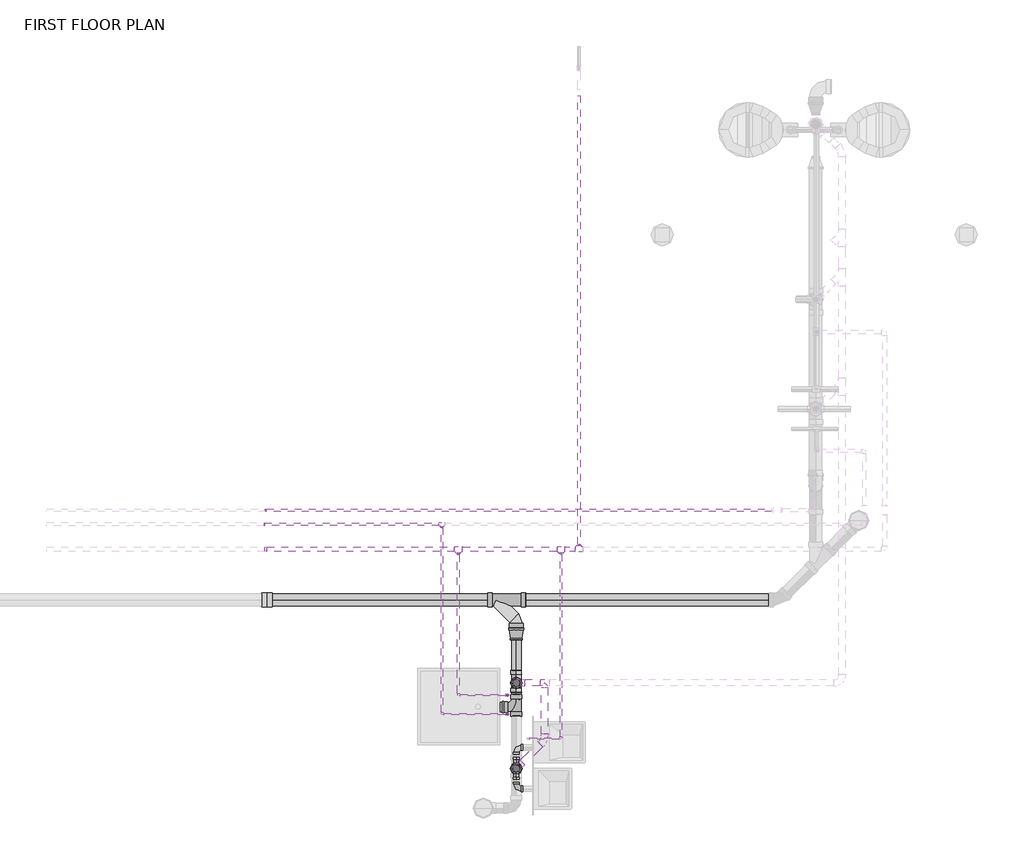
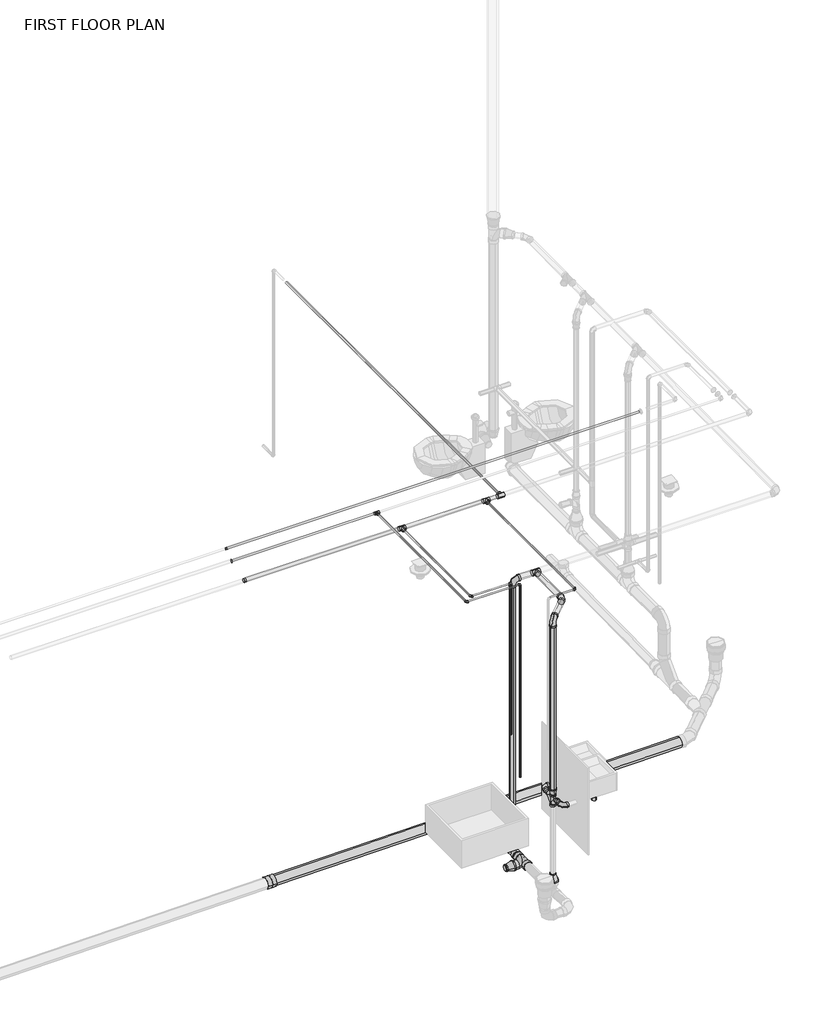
# One storey, part 7 of 9: 32 pipe fittings, 26 pipe segments.
"""IFC4 building model written with IfcOpenShell, lengths in millimetres."""

from ifc_helpers import new_model, si_unit, point, frame, frame_2d, origin, place, context, project, spatial, circle_curve, trimmed, segment, composite_curve, outline, extrude, transform, mapped, element, save
from components import bend_pvc_sch_40_dwv_standard_738aab8b, bend_pvc_sch_40_dwv_standard_1eaeee76, bend_pvc_sch_40_dwv_standard_d40d7286, bend_pvc_sch_40_dwv_standard_5578bafd, coupling_generic_copper_k_1c10cf6c, coupling_generic_copper_k_8cdb91ae, coupling_pvc_sch_40_dwv_standard_81254d96, coupling_concentric_reducing_threaded_mi_class_150_standard_f28a3886, coupling_concentric_reducing_threaded_mi_class_150_standard_7db7402d, coupling_concentric_reducing_threaded_mi_class_150_standard_01227178, coupling_concentric_reducing_threaded_mi_class_150_standard_b9624de7, pipe_elbow_copper_k_aad62f2d, pipe_tee_copper_k_36278b8a, pipe_tee_copper_k_7127fd44, pipe_tee_copper_k_ee363fbf, pipe_transition_copper_k_15e78aa1, pipe_transition_copper_k_2cc0d8ed, pipe_transition_copper_k_859ff352, pipe_transition_copper_k_6071329e, pipe_transition_copper_k_a0e390c6, standard_01f99a9c, standard_62f9fb3f, tee_sanitary_pvc_sch_40_dwv_standard_d77f13d0, tee_sanitary_pvc_sch_40_dwv_standard_fbf7a947

model = new_model("IFC4")

# Units and contexts
model_context = context("Model", 3, world=origin())
ifc_project = project(units=[si_unit("LENGTHUNIT", "METRE", prefix="MILLI")], contexts=[model_context])

# Site, building, storey
site = spatial("IfcSite", under=ifc_project)
building = spatial("IfcBuilding", under=site)
storey = spatial("IfcBuildingStorey", under=building, Name="FIRST FLOOR PLAN", Elevation=0.0)

# Pipe fittings
placement = place(None, origin())
bend_pvc_sch_40_dwv_standard_shape = bend_pvc_sch_40_dwv_standard_738aab8b(model_context)
element("IfcPipeFitting", 1, ObjectType="Bend - PVC - Sch 40 - DWV : Standard", at=placement, inside=storey, context=model_context, shape_type="MappedRepresentation", body=[
    mapped(bend_pvc_sch_40_dwv_standard_shape, transform((34740.1726669, 3470.2605294, 669.1225827), x_axis=(0.0, -1.0, 0.0), y_axis=(1.0, 0.0, 0.0), z_axis=(0.0, 0.0, 1.0))),
])
element("IfcPipeFitting", 2, ObjectType="Bend - PVC - Sch 40 - DWV : Standard", at=placement, inside=storey, context=model_context, shape_type="MappedRepresentation", body=[
    mapped(bend_pvc_sch_40_dwv_standard_shape, transform((34740.1726669, 3853.5783282, 669.1225827), x_axis=(-1.0, 0.0, 0.0), y_axis=(0.0, -1.0, 0.0), z_axis=(0.0, 0.0, 1.0))),
])
bend_pvc_sch_40_dwv_standard_2_shape = bend_pvc_sch_40_dwv_standard_1eaeee76(model_context)
element("IfcPipeFitting", 3, ObjectType="Bend - PVC - Sch 40 - DWV : Standard", at=placement, inside=storey, context=model_context, shape_type="MappedRepresentation", body=[
    mapped(bend_pvc_sch_40_dwv_standard_2_shape, transform((34740.1726669, 3659.5026874, 2794.0), x_axis=(0.0, 0.0, 1.0), y_axis=(0.7071067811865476, 0.7071067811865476, 0.0), z_axis=(-0.7071067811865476, 0.7071067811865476, 0.0))),
])
bend_pvc_sch_40_dwv_standard_3_shape = bend_pvc_sch_40_dwv_standard_d40d7286(model_context)
element("IfcPipeFitting", 4, ObjectType="Bend - PVC - Sch 40 - DWV : Standard", at=placement, inside=storey, context=model_context, shape_type="MappedRepresentation", body=[
    mapped(bend_pvc_sch_40_dwv_standard_3_shape, transform((34740.1726669, 4454.4669418, 2793.9999946), x_axis=(0.0, 0.0, 1.0), y_axis=(1.0, 0.0, 0.0), z_axis=(0.0, 1.0, 0.0))),
])
bend_pvc_sch_40_dwv_standard_4_shape = bend_pvc_sch_40_dwv_standard_5578bafd(model_context)
element("IfcPipeFitting", 5, ObjectType="Bend - PVC - Sch 40 - DWV : Standard", at=placement, inside=storey, context=model_context, shape_type="MappedRepresentation", body=[
    mapped(bend_pvc_sch_40_dwv_standard_4_shape, transform((35003.957344, 3923.2873645, 2794.0), x_axis=(0.707106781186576, 0.7071067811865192, 0.0), y_axis=(-0.7071067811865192, 0.707106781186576, 0.0), z_axis=(0.0, 0.0, 1.0))),
])
coupling_generic_copper_k_shape = coupling_generic_copper_k_1c10cf6c(model_context)
element("IfcPipeFitting", 6, ObjectType="Coupling - Generic : Copper- K", at=placement, inside=storey, context=model_context, shape_type="MappedRepresentation", body=[
    mapped(coupling_generic_copper_k_shape, transform((32413.5558918, 6059.1974224, 3007.2229223), x_axis=(-1.0, 0.0, 0.0), y_axis=(0.0, -1.0, 0.0), z_axis=(0.0, 0.0, 1.0))),
])
coupling_generic_copper_k_2_shape = coupling_generic_copper_k_8cdb91ae(model_context)
element("IfcPipeFitting", 7, ObjectType="Coupling - Generic : Copper- K", at=placement, inside=storey, context=model_context, shape_type="MappedRepresentation", body=[
    mapped(coupling_generic_copper_k_2_shape, transform((32411.7464678, 5696.5205406, 2847.5440079), x_axis=(1.0, 0.0, 0.0), y_axis=(0.0, 1.0, 0.0), z_axis=(0.0, 0.0, 1.0))),
])
coupling_pvc_sch_40_dwv_standard_shape = coupling_pvc_sch_40_dwv_standard_81254d96(model_context)
element("IfcPipeFitting", 8, ObjectType="Coupling - PVC - Sch 40 - DWV : Standard", at=placement, inside=storey, context=model_context, shape_type="MappedRepresentation", body=[
    mapped(coupling_pvc_sch_40_dwv_standard_shape, transform((32423.9541823, 5226.9278226, -492.9957265), x_axis=(-0.9999457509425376, 0.0, -0.010416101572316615), y_axis=(0.0, -1.0000000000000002, 0.0), z_axis=(-0.010416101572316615, 0.0, 0.9999457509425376))),
])
coupling_concentric_reducing_threaded_mi_class_150_standard_shape = coupling_concentric_reducing_threaded_mi_class_150_standard_f28a3886(model_context)
element("IfcPipeFitting", 9, ObjectType="Coupling Concentric Reducing - Threaded - MI - Class 150 : Standard", at=placement, inside=storey, context=model_context, shape_type="MappedRepresentation", body=[
    mapped(coupling_concentric_reducing_threaded_mi_class_150_standard_shape, transform((34740.2032876, 3659.4721111, 700.0597827), x_axis=(0.0, 0.0, 1.0), y_axis=(0.0, -1.0, 0.0), z_axis=(1.0, 0.0, 0.0))),
])
coupling_concentric_reducing_threaded_mi_class_150_standard_2_shape = coupling_concentric_reducing_threaded_mi_class_150_standard_7db7402d(model_context)
element("IfcPipeFitting", 10, ObjectType="Coupling Concentric Reducing - Threaded - MI - Class 150 : Standard", at=placement, inside=storey, context=model_context, shape_type="MappedRepresentation", body=[
    mapped(coupling_concentric_reducing_threaded_mi_class_150_standard_2_shape, transform((34624.384561, 4229.7394509, -462.2184979), x_axis=(-1.0, 0.0, 0.0), y_axis=(0.0, -0.9999458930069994, 0.010402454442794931), z_axis=(0.0, 0.010402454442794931, 0.9999458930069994))),
])
element("IfcPipeFitting", 11, ObjectType="Coupling Concentric Reducing - Threaded - MI - Class 150 : Standard", at=placement, inside=storey, context=model_context, shape_type="MappedRepresentation", body=[
    mapped(coupling_concentric_reducing_threaded_mi_class_150_standard_2_shape, transform((34740.284761, 4454.3928316, -348.4820026), x_axis=(0.0, 0.0, 1.0), y_axis=(0.0, 1.0, 0.0), z_axis=(-1.0, 0.0, 0.0))),
])
coupling_concentric_reducing_threaded_mi_class_150_standard_3_shape = coupling_concentric_reducing_threaded_mi_class_150_standard_01227178(model_context)
element("IfcPipeFitting", 12, ObjectType="Coupling Concentric Reducing - Threaded - MI - Class 150 : Standard", at=placement, inside=storey, context=model_context, shape_type="MappedRepresentation", body=[
    mapped(coupling_concentric_reducing_threaded_mi_class_150_standard_3_shape, transform((34740.284761, 4964.1913911, -468.0836603), x_axis=(0.0, -0.9999955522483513, 0.002982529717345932), y_axis=(0.9999457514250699, 3.106619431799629e-05, 0.010416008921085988), z_axis=(-0.010416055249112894, 0.002982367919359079, 0.9999413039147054))),
])
coupling_concentric_reducing_threaded_mi_class_150_standard_4_shape = coupling_concentric_reducing_threaded_mi_class_150_standard_b9624de7(model_context)
element("IfcPipeFitting", 13, ObjectType="Coupling Concentric Reducing - Threaded - MI - Class 150 : Standard", at=placement, inside=storey, context=model_context, shape_type="MappedRepresentation", body=[
    mapped(coupling_concentric_reducing_threaded_mi_class_150_standard_4_shape, transform((34740.1948035, 3659.4805822, -340.385885), x_axis=(0.0, 0.0, 1.0), y_axis=(-1.0, 0.0, 0.0), z_axis=(0.0, -1.0, 0.0))),
])
pipe_elbow_copper_k_shape = pipe_elbow_copper_k_aad62f2d(model_context)
element("IfcPipeFitting", 14, ObjectType="Pipe Elbow : Copper- K", at=placement, inside=storey, context=model_context, shape_type="MappedRepresentation", body=[
    mapped(pipe_elbow_copper_k_shape, transform((34658.0589678, 4340.9414319, 2847.578125), x_axis=(0.0, 0.0, 1.0), y_axis=(-1.0, 0.0, 0.0), z_axis=(0.0, -1.0, 0.0))),
])
element("IfcPipeFitting", 15, ObjectType="Pipe Elbow : Copper- K", at=placement, inside=storey, context=model_context, shape_type="MappedRepresentation", body=[
    mapped(pipe_elbow_copper_k_shape, transform((34658.0589678, 4164.4007442, 2942.828125), x_axis=(0.0, 0.0, 1.0), y_axis=(-1.0, 0.0, 0.0), z_axis=(0.0, -1.0, 0.0))),
])
element("IfcPipeFitting", 16, ObjectType="Pipe Elbow : Copper- K", at=placement, inside=storey, context=model_context, shape_type="MappedRepresentation", body=[
    mapped(pipe_elbow_copper_k_shape, transform((34200.8589678, 4340.9414319, 2847.578125), x_axis=(0.0, -0.9999999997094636, 2.410545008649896e-05), y_axis=(1.0, 0.0, 0.0), z_axis=(0.0, 2.410545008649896e-05, 0.9999999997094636))),
])
element("IfcPipeFitting", 17, ObjectType="Pipe Elbow : Copper- K", at=placement, inside=storey, context=model_context, shape_type="MappedRepresentation", body=[
    mapped(pipe_elbow_copper_k_shape, transform((34048.4589678, 4164.4007442, 2942.828125), x_axis=(0.0, -1.0, 0.0), y_axis=(1.0, 0.0, 0.0), z_axis=(0.0, 0.0, 1.0))),
])
element("IfcPipeFitting", 18, ObjectType="Pipe Elbow : Copper- K", at=placement, inside=storey, context=model_context, shape_type="MappedRepresentation", body=[
    mapped(pipe_elbow_copper_k_shape, transform((35155.3386964, 3935.1645979, 2847.5777979), x_axis=(1.0, 0.0, 0.0), y_axis=(0.0, 1.0, 0.0), z_axis=(0.0, 0.0, 1.0))),
])
pipe_tee_copper_k_shape = pipe_tee_copper_k_36278b8a(model_context)
element("IfcPipeFitting", 19, ObjectType="Pipe Tee : Copper- K", at=placement, inside=storey, context=model_context, shape_type="MappedRepresentation", body=[
    mapped(pipe_tee_copper_k_shape, transform((35003.957344, 4454.4669418, 2794.0), x_axis=(1.0, 0.0, 0.0), y_axis=(0.0, 1.0, 0.0), z_axis=(0.0, 0.0, 1.0))),
])
pipe_tee_copper_k_2_shape = pipe_tee_copper_k_7127fd44(model_context)
element("IfcPipeFitting", 20, ObjectType="Pipe Tee : Copper- K", at=placement, inside=storey, context=model_context, shape_type="MappedRepresentation", body=[
    mapped(pipe_tee_copper_k_2_shape, transform((35155.3386964, 5696.5205406, 2847.5440079), x_axis=(-1.0, 0.0, 0.0), y_axis=(0.0, 1.0, 0.0), z_axis=(0.0, 0.0, -1.0))),
])
element("IfcPipeFitting", 21, ObjectType="Pipe Tee : Copper- K", at=placement, inside=storey, context=model_context, shape_type="MappedRepresentation", body=[
    mapped(pipe_tee_copper_k_2_shape, transform((34200.8589678, 5696.5205406, 2847.5440079), x_axis=(-1.0, 0.0, 0.0), y_axis=(0.0, 1.0, 0.0), z_axis=(0.0, 0.0, -1.0))),
])
element("IfcPipeFitting", 22, ObjectType="Pipe Tee : Copper- K", at=placement, inside=storey, context=model_context, shape_type="MappedRepresentation", body=[
    mapped(pipe_tee_copper_k_2_shape, transform((35321.9240213, 5696.5205406, 2847.5440079), x_axis=(-1.0, 0.0, 0.0), y_axis=(0.0, -1.0, 0.0), z_axis=(0.0, 0.0, 1.0))),
])
pipe_tee_copper_k_3_shape = pipe_tee_copper_k_ee363fbf(model_context)
element("IfcPipeFitting", 23, ObjectType="Pipe Tee : Copper- K", at=placement, inside=storey, context=model_context, shape_type="MappedRepresentation", body=[
    mapped(pipe_tee_copper_k_3_shape, transform((34048.4589678, 5928.9468422, 2942.828125), x_axis=(-1.0, 0.0, 0.0), y_axis=(0.0, 1.0, 0.0), z_axis=(0.0, 0.0, -1.0))),
])
pipe_transition_copper_k_shape = pipe_transition_copper_k_15e78aa1(model_context)
element("IfcPipeFitting", 24, ObjectType="Pipe Transition : Copper- K", at=placement, inside=storey, context=model_context, shape_type="MappedRepresentation", body=[
    mapped(pipe_transition_copper_k_shape, transform((35155.3386964, 5660.0080406, 2847.5440079), x_axis=(0.0, -1.0, 0.0), y_axis=(1.0, 0.0, 0.0), z_axis=(0.0, 0.0, 1.0))),
])
pipe_transition_copper_k_2_shape = pipe_transition_copper_k_2cc0d8ed(model_context)
element("IfcPipeFitting", 25, ObjectType="Pipe Transition : Copper- K", at=placement, inside=storey, context=model_context, shape_type="MappedRepresentation", body=[
    mapped(pipe_transition_copper_k_2_shape, transform((34200.8589678, 5660.0080406, 2847.5440079), x_axis=(0.0, -1.0, 0.0), y_axis=(1.0, 0.0, 0.0), z_axis=(0.0, 0.0, 1.0))),
])
pipe_transition_copper_k_3_shape = pipe_transition_copper_k_859ff352(model_context)
element("IfcPipeFitting", 26, ObjectType="Pipe Transition : Copper- K", at=placement, inside=storey, context=model_context, shape_type="MappedRepresentation", body=[
    mapped(pipe_transition_copper_k_3_shape, transform((34048.4589678, 5901.9593422, 2942.828125), x_axis=(0.0, -1.0, 0.0), y_axis=(1.0, 0.0, 0.0), z_axis=(0.0, 0.0, 1.0))),
])
pipe_transition_copper_k_4_shape = pipe_transition_copper_k_6071329e(model_context)
element("IfcPipeFitting", 27, ObjectType="Pipe Transition : Copper- K", at=placement, inside=storey, context=model_context, shape_type="MappedRepresentation", body=[
    mapped(pipe_transition_copper_k_4_shape, transform((35321.9240213, 5733.0330406, 2847.5440079), x_axis=(0.0, 1.0, 0.0), y_axis=(-1.0, 0.0, 0.0), z_axis=(0.0, 0.0, 1.0))),
])
pipe_transition_copper_k_5_shape = pipe_transition_copper_k_a0e390c6(model_context)
element("IfcPipeFitting", 28, ObjectType="Pipe Transition : Copper- K", at=placement, inside=storey, context=model_context, shape_type="MappedRepresentation", body=[
    mapped(pipe_transition_copper_k_5_shape, transform((32401.4277178, 5928.9468422, 2942.828125), x_axis=(-1.0, 0.0, 0.0), y_axis=(0.0, -1.0, 0.0), z_axis=(0.0, 0.0, 1.0))),
])
standard_shape = standard_01f99a9c(model_context)
element("IfcPipeFitting", 29, ObjectType="GES Wye Combination with 8th Bend Double - PVC - Sch 40 - DWV : Standard", at=placement, inside=storey, context=model_context, shape_type="MappedRepresentation", body=[
    mapped(standard_shape, transform((34740.2032876, 3659.4721111, 669.1225827), x_axis=(0.0, 0.0, 1.0), y_axis=(0.0, 1.0, 0.0), z_axis=(-1.0, 0.0, 0.0))),
])
standard_2_shape = standard_62f9fb3f(model_context)
element("IfcPipeFitting", 30, ObjectType="GES Wye Combination with 8th Bend - PVC - Sch 40 - DWV : Standard", at=placement, inside=storey, context=model_context, shape_type="MappedRepresentation", body=[
    mapped(standard_2_shape, transform((34740.284761, 5226.9278226, -468.867283), x_axis=(0.9999457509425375, 0.0, 0.01041610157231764), y_axis=(3.106464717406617e-05, 0.9999955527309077, -0.002982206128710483), z_axis=(-0.010416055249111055, 0.002982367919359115, 0.9999413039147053))),
])
tee_sanitary_pvc_sch_40_dwv_standard_shape = tee_sanitary_pvc_sch_40_dwv_standard_d77f13d0(model_context)
element("IfcPipeFitting", 31, ObjectType="Tee Sanitary - PVC - Sch 40 - DWV : Standard", at=placement, inside=storey, context=model_context, shape_type="MappedRepresentation", body=[
    mapped(tee_sanitary_pvc_sch_40_dwv_standard_shape, transform((34740.284761, 4229.7394509, -462.2184979), x_axis=(0.0, -0.9999458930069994, 0.010402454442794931), y_axis=(1.0, 0.0, 0.0), z_axis=(0.0, 0.010402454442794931, 0.9999458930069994))),
])
tee_sanitary_pvc_sch_40_dwv_standard_2_shape = tee_sanitary_pvc_sch_40_dwv_standard_fbf7a947(model_context)
element("IfcPipeFitting", 32, ObjectType="Tee Sanitary - PVC - Sch 40 - DWV : Standard", at=placement, inside=storey, context=model_context, shape_type="MappedRepresentation", body=[
    mapped(tee_sanitary_pvc_sch_40_dwv_standard_2_shape, transform((34740.284761, 4454.3928316, -464.3822026), x_axis=(0.0, -0.9999642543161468, 0.008455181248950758), y_axis=(0.0, -0.008455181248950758, -0.9999642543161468), z_axis=(1.0, 0.0, 0.0))),
])

# Pipe segments
element("IfcPipeSegment", 33, ObjectType="Copper", at=placement, inside=storey, context=model_context, shape_type="SweptSolid", body=[
    extrude(outline(composite_curve([segment(trimmed(circle_curve(frame_2d((3935.1645979, 2847.578125)), 7.9375), [point((3927.2270979, 2847.578125))], [point((3935.1645979, 2855.515625))], False, "CARTESIAN"), True, "CONTINUOUS"), segment(trimmed(circle_curve(frame_2d((3935.1645979, 2847.578125)), 7.9375), [point((3935.1645979, 2855.515625))], [point((3943.1020979, 2847.578125))], False, "CARTESIAN"), True, "CONTINUOUS"), segment(trimmed(circle_curve(frame_2d((3935.1645979, 2847.578125)), 7.9375), [point((3943.1020979, 2847.578125))], [point((3935.1645979, 2839.640625))], False, "CARTESIAN"), True, "CONTINUOUS"), segment(trimmed(circle_curve(frame_2d((3935.1645979, 2847.578125)), 7.9375), [point((3935.1645979, 2839.640625))], [point((3927.2270979, 2847.578125))], False, "CARTESIAN"), True, "CONTINUOUS")], self_intersect=False)), frame((34864.8980779, 0.0, 0.0), z_axis=(1.0, 0.0, 0.0), x_axis=(0.0, 1.0, 0.0)), (0.0, 0.0, 1.0), 272.9781184),
])
element("IfcPipeSegment", 34, ObjectType="Copper", at=placement, inside=storey, context=model_context, shape_type="SweptSolid", body=[
    extrude(outline(composite_curve([segment(trimmed(circle_curve(frame_2d((2847.5777979, 35155.3386964)), 7.9375), [point((2847.5777979, 35147.4011964))], [point((2839.6402979, 35155.3386964))], False, "CARTESIAN"), True, "CONTINUOUS"), segment(trimmed(circle_curve(frame_2d((2847.5777979, 35155.3386964)), 7.9375), [point((2839.6402979, 35155.3386964))], [point((2847.5777979, 35163.2761964))], False, "CARTESIAN"), True, "CONTINUOUS"), segment(trimmed(circle_curve(frame_2d((2847.5777979, 35155.3386964)), 7.9375), [point((2847.5777979, 35163.2761964))], [point((2855.5152979, 35155.3386964))], False, "CARTESIAN"), True, "CONTINUOUS"), segment(trimmed(circle_curve(frame_2d((2847.5777979, 35155.3386964)), 7.9375), [point((2855.5152979, 35155.3386964))], [point((2847.5777979, 35147.4011964))], False, "CARTESIAN"), True, "CONTINUOUS")], self_intersect=False)), frame((0.0, 3952.6270979, 0.0), z_axis=(0.0, 1.0, 0.0), x_axis=(0.0, 0.0, 1.0)), (0.0, 0.0, 1.0), 1697.0621927),
])
element("IfcPipeSegment", 35, ObjectType="Copper", at=placement, inside=storey, context=model_context, shape_type="SweptSolid", body=[
    extrude(outline(composite_curve([segment(trimmed(circle_curve(frame_2d((5696.5205406, 2847.5440079)), 20.6375), [point((5675.8830406, 2847.5440079))], [point((5696.5205406, 2868.1815079))], False, "CARTESIAN"), True, "CONTINUOUS"), segment(trimmed(circle_curve(frame_2d((5696.5205406, 2847.5440079)), 20.6375), [point((5696.5205406, 2868.1815079))], [point((5717.1580406, 2847.5440079))], False, "CARTESIAN"), True, "CONTINUOUS"), segment(trimmed(circle_curve(frame_2d((5696.5205406, 2847.5440079)), 20.6375), [point((5717.1580406, 2847.5440079))], [point((5696.5205406, 2826.9065079))], False, "CARTESIAN"), True, "CONTINUOUS"), segment(trimmed(circle_curve(frame_2d((5696.5205406, 2847.5440079)), 20.6375), [point((5696.5205406, 2826.9065079))], [point((5675.8830406, 2847.5440079))], False, "CARTESIAN"), True, "CONTINUOUS")], self_intersect=False)), frame((34237.3714678, 0.0, 0.0), z_axis=(1.0, 0.0, 0.0), x_axis=(0.0, 1.0, 0.0)), (0.0, 0.0, 1.0), 881.4547286),
])
element("IfcPipeSegment", 36, ObjectType="Copper", at=placement, inside=storey, context=model_context, shape_type="SweptSolid", body=[
    extrude(outline(composite_curve([segment(trimmed(circle_curve(frame_2d((4340.9414319, 2847.578125)), 7.9375), [point((4348.8789319, 2847.578125))], [point((4340.9414319, 2839.640625))], False, "CARTESIAN"), True, "CONTINUOUS"), segment(trimmed(circle_curve(frame_2d((4340.9414319, 2847.578125)), 7.9375), [point((4340.9414319, 2839.640625))], [point((4333.0039319, 2847.578125))], False, "CARTESIAN"), True, "CONTINUOUS"), segment(trimmed(circle_curve(frame_2d((4340.9414319, 2847.578125)), 7.9375), [point((4333.0039319, 2847.578125))], [point((4340.9414319, 2855.515625))], False, "CARTESIAN"), True, "CONTINUOUS"), segment(trimmed(circle_curve(frame_2d((4340.9414319, 2847.578125)), 7.9375), [point((4340.9414319, 2855.515625))], [point((4348.8789319, 2847.578125))], False, "CARTESIAN"), True, "CONTINUOUS")], self_intersect=False)), frame((34218.3214678, 0.0, 0.0), z_axis=(1.0, 0.0, 0.0), x_axis=(0.0, 1.0, 0.0)), (0.0, 0.0, 1.0), 422.275),
])
element("IfcPipeSegment", 37, ObjectType="Copper", at=placement, inside=storey, context=model_context, shape_type="SweptSolid", body=[
    extrude(outline(composite_curve([segment(trimmed(circle_curve(frame_2d((4164.4007442, 2942.828125)), 7.9375), [point((4172.3382442, 2942.828125))], [point((4164.4007442, 2934.890625))], False, "CARTESIAN"), True, "CONTINUOUS"), segment(trimmed(circle_curve(frame_2d((4164.4007442, 2942.828125)), 7.9375), [point((4164.4007442, 2934.890625))], [point((4156.4632442, 2942.828125))], False, "CARTESIAN"), True, "CONTINUOUS"), segment(trimmed(circle_curve(frame_2d((4164.4007442, 2942.828125)), 7.9375), [point((4156.4632442, 2942.828125))], [point((4164.4007442, 2950.765625))], False, "CARTESIAN"), True, "CONTINUOUS"), segment(trimmed(circle_curve(frame_2d((4164.4007442, 2942.828125)), 7.9375), [point((4164.4007442, 2950.765625))], [point((4172.3382442, 2942.828125))], False, "CARTESIAN"), True, "CONTINUOUS")], self_intersect=False)), frame((34065.9214678, 0.0, 0.0), z_axis=(1.0, 0.0, 0.0), x_axis=(0.0, 1.0, 0.0)), (0.0, 0.0, 1.0), 574.675),
])
element("IfcPipeSegment", 38, ObjectType="Copper", at=placement, inside=storey, context=model_context, shape_type="SweptSolid", body=[
    extrude(outline(composite_curve([segment(trimmed(circle_curve(frame_2d((34658.0589678, 4164.4007442)), 7.9375), [point((34665.9964678, 4164.4007442))], [point((34658.0589678, 4156.4632442))], False, "CARTESIAN"), True, "CONTINUOUS"), segment(trimmed(circle_curve(frame_2d((34658.0589678, 4164.4007442)), 7.9375), [point((34658.0589678, 4156.4632442))], [point((34650.1214678, 4164.4007442))], False, "CARTESIAN"), True, "CONTINUOUS"), segment(trimmed(circle_curve(frame_2d((34658.0589678, 4164.4007442)), 7.9375), [point((34650.1214678, 4164.4007442))], [point((34658.0589678, 4172.3382442))], False, "CARTESIAN"), True, "CONTINUOUS"), segment(trimmed(circle_curve(frame_2d((34658.0589678, 4164.4007442)), 7.9375), [point((34658.0589678, 4172.3382442))], [point((34665.9964678, 4164.4007442))], False, "CARTESIAN"), True, "CONTINUOUS")], self_intersect=False)), frame((0.0, 0.0, 629.840625), z_axis=(0.0, 0.0, 1.0), x_axis=(1.0, 0.0, 0.0)), (0.0, 0.0, 1.0), 2295.525),
])
element("IfcPipeSegment", 39, ObjectType="Copper", at=placement, inside=storey, context=model_context, shape_type="SweptSolid", body=[
    extrude(outline(composite_curve([segment(trimmed(circle_curve(frame_2d((34658.0589678, 4340.9414319)), 7.9375), [point((34665.9964678, 4340.9414319))], [point((34658.0589678, 4333.0039319))], False, "CARTESIAN"), True, "CONTINUOUS"), segment(trimmed(circle_curve(frame_2d((34658.0589678, 4340.9414319)), 7.9375), [point((34658.0589678, 4333.0039319))], [point((34650.1214678, 4340.9414319))], False, "CARTESIAN"), True, "CONTINUOUS"), segment(trimmed(circle_curve(frame_2d((34658.0589678, 4340.9414319)), 7.9375), [point((34650.1214678, 4340.9414319))], [point((34658.0589678, 4348.8789319))], False, "CARTESIAN"), True, "CONTINUOUS"), segment(trimmed(circle_curve(frame_2d((34658.0589678, 4340.9414319)), 7.9375), [point((34658.0589678, 4348.8789319))], [point((34665.9964678, 4340.9414319))], False, "CARTESIAN"), True, "CONTINUOUS")], self_intersect=False)), frame((0.0, 0.0, 1036.1671981), z_axis=(0.0, 0.0, 1.0), x_axis=(1.0, 0.0, 0.0)), (0.0, 0.0, 1.0), 1793.9484269),
])
element("IfcPipeSegment", 40, ObjectType="Copper", at=placement, inside=storey, context=model_context, shape_type="SweptSolid", body=[
    extrude(outline(composite_curve([segment(trimmed(circle_curve(frame_2d((2847.5777041, 34200.8589678)), 7.9375), [point((2847.5777041, 34192.9214678))], [point((2839.6402041, 34200.8589678))], False, "CARTESIAN"), True, "CONTINUOUS"), segment(trimmed(circle_curve(frame_2d((2847.5777041, 34200.8589678)), 7.9375), [point((2839.6402041, 34200.8589678))], [point((2847.5777041, 34208.7964678))], False, "CARTESIAN"), True, "CONTINUOUS"), segment(trimmed(circle_curve(frame_2d((2847.5777041, 34200.8589678)), 7.9375), [point((2847.5777041, 34208.7964678))], [point((2855.5152041, 34200.8589678))], False, "CARTESIAN"), True, "CONTINUOUS"), segment(trimmed(circle_curve(frame_2d((2847.5777041, 34200.8589678)), 7.9375), [point((2855.5152041, 34200.8589678))], [point((2847.5777041, 34192.9214678))], False, "CARTESIAN"), True, "CONTINUOUS")], self_intersect=False)), frame((0.0, 4358.4039319, 0.0), z_axis=(0.0, 1.0, 0.0), x_axis=(0.0, 0.0, 1.0)), (0.0, 0.0, 1.0), 1291.2853586),
])
element("IfcPipeSegment", 41, ObjectType="Copper", at=placement, inside=storey, context=model_context, shape_type="SweptSolid", body=[
    extrude(outline(composite_curve([segment(trimmed(circle_curve(frame_2d((5696.5205406, 2847.5440079)), 20.6375), [point((5675.8830406, 2847.5440079))], [point((5696.5205406, 2868.1815079))], False, "CARTESIAN"), True, "CONTINUOUS"), segment(trimmed(circle_curve(frame_2d((5696.5205406, 2847.5440079)), 20.6375), [point((5696.5205406, 2868.1815079))], [point((5717.1580406, 2847.5440079))], False, "CARTESIAN"), True, "CONTINUOUS"), segment(trimmed(circle_curve(frame_2d((5696.5205406, 2847.5440079)), 20.6375), [point((5717.1580406, 2847.5440079))], [point((5696.5205406, 2826.9065079))], False, "CARTESIAN"), True, "CONTINUOUS"), segment(trimmed(circle_curve(frame_2d((5696.5205406, 2847.5440079)), 20.6375), [point((5696.5205406, 2826.9065079))], [point((5675.8830406, 2847.5440079))], False, "CARTESIAN"), True, "CONTINUOUS")], self_intersect=False)), frame((32422.0652178, 0.0, 0.0), z_axis=(1.0, 0.0, 0.0), x_axis=(0.0, 1.0, 0.0)), (0.0, 0.0, 1.0), 1742.28125),
])
element("IfcPipeSegment", 42, ObjectType="Copper", at=placement, inside=storey, context=model_context, shape_type="SweptSolid", body=[
    extrude(outline(composite_curve([segment(trimmed(circle_curve(frame_2d((2942.828125, 34048.4589678)), 7.9375), [point((2942.828125, 34040.5214678))], [point((2934.890625, 34048.4589678))], False, "CARTESIAN"), True, "CONTINUOUS"), segment(trimmed(circle_curve(frame_2d((2942.828125, 34048.4589678)), 7.9375), [point((2934.890625, 34048.4589678))], [point((2942.828125, 34056.3964678))], False, "CARTESIAN"), True, "CONTINUOUS"), segment(trimmed(circle_curve(frame_2d((2942.828125, 34048.4589678)), 7.9375), [point((2942.828125, 34056.3964678))], [point((2950.765625, 34048.4589678))], False, "CARTESIAN"), True, "CONTINUOUS"), segment(trimmed(circle_curve(frame_2d((2942.828125, 34048.4589678)), 7.9375), [point((2950.765625, 34048.4589678))], [point((2942.828125, 34040.5214678))], False, "CARTESIAN"), True, "CONTINUOUS")], self_intersect=False)), frame((0.0, 4181.8632442, 0.0), z_axis=(0.0, 1.0, 0.0), x_axis=(0.0, 0.0, 1.0)), (0.0, 0.0, 1.0), 1714.539848),
])
element("IfcPipeSegment", 43, ObjectType="Copper", at=placement, inside=storey, context=model_context, shape_type="SweptSolid", body=[
    extrude(outline(composite_curve([segment(trimmed(circle_curve(frame_2d((5696.5205406, 2847.5440079)), 20.6375), [point((5675.8830406, 2847.5440079))], [point((5696.5205406, 2868.1815079))], False, "CARTESIAN"), True, "CONTINUOUS"), segment(trimmed(circle_curve(frame_2d((5696.5205406, 2847.5440079)), 20.6375), [point((5696.5205406, 2868.1815079))], [point((5717.1580406, 2847.5440079))], False, "CARTESIAN"), True, "CONTINUOUS"), segment(trimmed(circle_curve(frame_2d((5696.5205406, 2847.5440079)), 20.6375), [point((5717.1580406, 2847.5440079))], [point((5696.5205406, 2826.9065079))], False, "CARTESIAN"), True, "CONTINUOUS"), segment(trimmed(circle_curve(frame_2d((5696.5205406, 2847.5440079)), 20.6375), [point((5696.5205406, 2826.9065079))], [point((5675.8830406, 2847.5440079))], False, "CARTESIAN"), True, "CONTINUOUS")], self_intersect=False)), frame((35191.8511964, 0.0, 0.0), z_axis=(1.0, 0.0, 0.0), x_axis=(0.0, 1.0, 0.0)), (0.0, 0.0, 1.0), 93.5603249),
])
element("IfcPipeSegment", 44, ObjectType="Copper", at=placement, inside=storey, context=model_context, shape_type="SweptSolid", body=[
    extrude(outline(composite_curve([segment(trimmed(circle_curve(frame_2d((2847.578125, 35321.9240213)), 11.1125), [point((2847.578125, 35333.0365213))], [point((2858.690625, 35321.9240213))], False, "CARTESIAN"), True, "CONTINUOUS"), segment(trimmed(circle_curve(frame_2d((2847.578125, 35321.9240213)), 11.1125), [point((2858.690625, 35321.9240213))], [point((2847.578125, 35310.8115213))], False, "CARTESIAN"), True, "CONTINUOUS"), segment(trimmed(circle_curve(frame_2d((2847.578125, 35321.9240213)), 11.1125), [point((2847.578125, 35310.8115213))], [point((2836.465625, 35321.9240213))], False, "CARTESIAN"), True, "CONTINUOUS"), segment(trimmed(circle_curve(frame_2d((2847.578125, 35321.9240213)), 11.1125), [point((2836.465625, 35321.9240213))], [point((2847.578125, 35333.0365213))], False, "CARTESIAN"), True, "CONTINUOUS")], self_intersect=False)), frame((0.0, 5743.3517906, 0.0), z_axis=(0.0, 1.0, 0.0), x_axis=(0.0, 0.0, 1.0)), (0.0, 0.0, 1.0), 4167.8407388),
])
element("IfcPipeSegment", 45, ObjectType="Copper", at=placement, inside=storey, context=model_context, shape_type="SweptSolid", body=[
    extrude(outline(composite_curve([segment(trimmed(circle_curve(frame_2d((6059.1974224, 3007.2229223)), 11.1125), [point((6070.3099224, 3007.2229223))], [point((6059.1974224, 2996.1104223))], False, "CARTESIAN"), True, "CONTINUOUS"), segment(trimmed(circle_curve(frame_2d((6059.1974224, 3007.2229223)), 11.1125), [point((6059.1974224, 2996.1104223))], [point((6048.0849224, 3007.2229223))], False, "CARTESIAN"), True, "CONTINUOUS"), segment(trimmed(circle_curve(frame_2d((6059.1974224, 3007.2229223)), 11.1125), [point((6048.0849224, 3007.2229223))], [point((6059.1974224, 3018.3354223))], False, "CARTESIAN"), True, "CONTINUOUS"), segment(trimmed(circle_curve(frame_2d((6059.1974224, 3007.2229223)), 11.1125), [point((6059.1974224, 3018.3354223))], [point((6070.3099224, 3007.2229223))], False, "CARTESIAN"), True, "CONTINUOUS")], self_intersect=False)), frame((32419.1121418, 0.0, 0.0), z_axis=(1.0, 0.0, 0.0), x_axis=(0.0, 1.0, 0.0)), (0.0, 0.0, 1.0), 4693.44375),
])
element("IfcPipeSegment", 46, ObjectType="Copper", at=placement, inside=storey, context=model_context, shape_type="SweptSolid", body=[
    extrude(outline(composite_curve([segment(trimmed(circle_curve(frame_2d((5928.9468422, 2942.828125)), 11.1125), [point((5940.0593422, 2942.828125))], [point((5928.9468422, 2931.715625))], False, "CARTESIAN"), True, "CONTINUOUS"), segment(trimmed(circle_curve(frame_2d((5928.9468422, 2942.828125)), 11.1125), [point((5928.9468422, 2931.715625))], [point((5917.8343422, 2942.828125))], False, "CARTESIAN"), True, "CONTINUOUS"), segment(trimmed(circle_curve(frame_2d((5928.9468422, 2942.828125)), 11.1125), [point((5917.8343422, 2942.828125))], [point((5928.9468422, 2953.940625))], False, "CARTESIAN"), True, "CONTINUOUS"), segment(trimmed(circle_curve(frame_2d((5928.9468422, 2942.828125)), 11.1125), [point((5928.9468422, 2953.940625))], [point((5940.0593422, 2942.828125))], False, "CARTESIAN"), True, "CONTINUOUS")], self_intersect=False)), frame((32401.4277178, 0.0, 0.0), z_axis=(1.0, 0.0, 0.0), x_axis=(0.0, 1.0, 0.0)), (0.0, 0.0, 1.0), 1620.04375),
])
element("IfcPipeSegment", 47, ObjectType="PVC - SAN/STORM", at=placement, inside=storey, context=model_context, shape_type="SweptSolid", body=[
    extrude(outline(composite_curve([segment(trimmed(circle_curve(frame_2d((4229.7394509, -462.2184979)), 30.1625), [point((4199.5769509, -462.2184979))], [point((4229.7394509, -432.0559979))], False, "CARTESIAN"), True, "CONTINUOUS"), segment(trimmed(circle_curve(frame_2d((4229.7394509, -462.2184979)), 30.1625), [point((4229.7394509, -432.0559979))], [point((4259.9019509, -462.2184979))], False, "CARTESIAN"), True, "CONTINUOUS"), segment(trimmed(circle_curve(frame_2d((4229.7394509, -462.2184979)), 30.1625), [point((4259.9019509, -462.2184979))], [point((4229.7394509, -492.3809979))], False, "CARTESIAN"), True, "CONTINUOUS"), segment(trimmed(circle_curve(frame_2d((4229.7394509, -462.2184979)), 30.1625), [point((4229.7394509, -492.3809979))], [point((4199.5769509, -462.2184979))], False, "CARTESIAN"), True, "CONTINUOUS")], self_intersect=False)), frame((34525.5860903, 0.0, 0.0), z_axis=(1.0, 0.0, 0.0), x_axis=(0.0, 1.0, 0.0)), (0.0, 0.0, 1.0), 5.0984707),
])
element("IfcPipeSegment", 48, ObjectType="PVC - SAN/STORM", at=placement, inside=storey, context=model_context, shape_type="SweptSolid", body=[
    extrude(outline(composite_curve([segment(trimmed(circle_curve(frame_2d((35172.2907279, 3853.5783282)), 24.13), [point((35148.1607279, 3853.5783282))], [point((35172.2907279, 3877.7083282))], False, "CARTESIAN"), True, "CONTINUOUS"), segment(trimmed(circle_curve(frame_2d((35172.2907279, 3853.5783282)), 24.13), [point((35172.2907279, 3877.7083282))], [point((35196.4207279, 3853.5783282))], False, "CARTESIAN"), True, "CONTINUOUS"), segment(trimmed(circle_curve(frame_2d((35172.2907279, 3853.5783282)), 24.13), [point((35196.4207279, 3853.5783282))], [point((35172.2907279, 3829.4483282))], False, "CARTESIAN"), True, "CONTINUOUS"), segment(trimmed(circle_curve(frame_2d((35172.2907279, 3853.5783282)), 24.13), [point((35172.2907279, 3829.4483282))], [point((35148.1607279, 3853.5783282))], False, "CARTESIAN"), True, "CONTINUOUS")], self_intersect=False)), frame((0.0, 0.0, 624.6598827), z_axis=(0.0, 0.0, 1.0), x_axis=(1.0, 0.0, 0.0)), (0.0, 0.0, 1.0), 120.65),
])
element("IfcPipeSegment", 49, ObjectType="PVC - SAN/STORM", at=placement, inside=storey, context=model_context, shape_type="SweptSolid", body=[
    extrude(outline(composite_curve([segment(trimmed(circle_curve(frame_2d((35097.7812957, 3470.2605294)), 24.13), [point((35073.6512957, 3470.2605294))], [point((35097.7812957, 3494.3905294))], False, "CARTESIAN"), True, "CONTINUOUS"), segment(trimmed(circle_curve(frame_2d((35097.7812957, 3470.2605294)), 24.13), [point((35097.7812957, 3494.3905294))], [point((35121.9112957, 3470.2605294))], False, "CARTESIAN"), True, "CONTINUOUS"), segment(trimmed(circle_curve(frame_2d((35097.7812957, 3470.2605294)), 24.13), [point((35121.9112957, 3470.2605294))], [point((35097.7812957, 3446.1305294))], False, "CARTESIAN"), True, "CONTINUOUS"), segment(trimmed(circle_curve(frame_2d((35097.7812957, 3470.2605294)), 24.13), [point((35097.7812957, 3446.1305294))], [point((35073.6512957, 3470.2605294))], False, "CARTESIAN"), True, "CONTINUOUS")], self_intersect=False)), frame((0.0, 0.0, 624.6598827), z_axis=(0.0, 0.0, 1.0), x_axis=(1.0, 0.0, 0.0)), (0.0, 0.0, 1.0), 177.8),
])
element("IfcPipeSegment", 50, ObjectType="PVC - SAN/STORM", at=placement, inside=storey, context=model_context, shape_type="SweptSolid", body=[
    extrude(outline(composite_curve([segment(trimmed(circle_curve(frame_2d((0.0, -44.45)), 44.45), [point((44.45, -44.45))], [point((0.0, -88.9))], False, "CARTESIAN"), True, "CONTINUOUS"), segment(trimmed(circle_curve(frame_2d((0.0, -44.45)), 44.45), [point((0.0, -88.9))], [point((-44.45, -44.45))], False, "CARTESIAN"), True, "CONTINUOUS"), segment(trimmed(circle_curve(frame_2d((0.0, -44.45)), 44.45), [point((-44.45, -44.45))], [point((0.0, 0.0))], False, "CARTESIAN"), True, "CONTINUOUS"), segment(trimmed(circle_curve(frame_2d((0.0, -44.45)), 44.45), [point((0.0, 0.0))], [point((44.45, -44.45))], False, "CARTESIAN"), True, "CONTINUOUS")], self_intersect=False)), frame((34740.284761, 4853.2677189, -423.3032937), z_axis=(0.0, -0.9999642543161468, 0.008455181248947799), x_axis=(1.0, 0.0, 0.0)), (0.0, 0.0, 1.0), 282.6130996),
])
element("IfcPipeSegment", 51, ObjectType="PVC - SAN/STORM", at=placement, inside=storey, context=model_context, shape_type="SweptSolid", body=[
    extrude(outline(composite_curve([segment(trimmed(circle_curve(frame_2d((0.0, -57.15)), 57.15), [point((0.0, 0.0))], [point((57.15, -57.15))], False, "CARTESIAN"), True, "CONTINUOUS"), segment(trimmed(circle_curve(frame_2d((0.0, -57.15)), 57.15), [point((57.15, -57.15))], [point((0.0, -114.3))], False, "CARTESIAN"), True, "CONTINUOUS"), segment(trimmed(circle_curve(frame_2d((0.0, -57.15)), 57.15), [point((0.0, -114.3))], [point((-57.15, -57.15))], False, "CARTESIAN"), True, "CONTINUOUS"), segment(trimmed(circle_curve(frame_2d((0.0, -57.15)), 57.15), [point((-57.15, -57.15))], [point((0.0, 0.0))], False, "CARTESIAN"), True, "CONTINUOUS")], self_intersect=False)), frame((34829.5676986, 5284.0778226, -467.9372524), z_axis=(0.9999457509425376, 0.0, 0.01041610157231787), x_axis=(0.01041610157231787, 0.0, -0.9999457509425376)), (0.0, 0.0, 1.0), 2255.1048284),
])
element("IfcPipeSegment", 52, ObjectType="PVC - SAN/STORM", at=placement, inside=storey, context=model_context, shape_type="SweptSolid", body=[
    extrude(outline(composite_curve([segment(trimmed(circle_curve(frame_2d((0.0, 30.1625)), 30.1625), [point((-30.1625, 30.1625))], [point((0.0, 60.325))], False, "CARTESIAN"), True, "CONTINUOUS"), segment(trimmed(circle_curve(frame_2d((0.0, 30.1625)), 30.1625), [point((0.0, 60.325))], [point((30.1625, 30.1625))], False, "CARTESIAN"), True, "CONTINUOUS"), segment(trimmed(circle_curve(frame_2d((0.0, 30.1625)), 30.1625), [point((30.1625, 30.1625))], [point((0.0, 0.0))], False, "CARTESIAN"), True, "CONTINUOUS"), segment(trimmed(circle_curve(frame_2d((0.0, 30.1625)), 30.1625), [point((0.0, 0.0))], [point((-30.1625, 30.1625))], False, "CARTESIAN"), True, "CONTINUOUS")], self_intersect=False)), frame((34740.284761, 4424.2303316, -254.7818542), z_axis=(-6.059596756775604e-06, 4.918283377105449e-06, 0.999999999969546), x_axis=(0.9999999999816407, 2.9801938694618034e-11, 6.059596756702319e-06)), (0.0, 0.0, 1.0), 2970.9817973),
])
element("IfcPipeSegment", 53, ObjectType="PVC - SAN/STORM", at=placement, inside=storey, context=model_context, shape_type="SweptSolid", body=[
    extrude(outline(composite_curve([segment(trimmed(circle_curve(frame_2d((0.0, -44.45)), 44.45), [point((44.45, -44.45))], [point((0.0, -88.9))], False, "CARTESIAN"), True, "CONTINUOUS"), segment(trimmed(circle_curve(frame_2d((0.0, -44.45)), 44.45), [point((0.0, -88.9))], [point((-44.45, -44.45))], False, "CARTESIAN"), True, "CONTINUOUS"), segment(trimmed(circle_curve(frame_2d((0.0, -44.45)), 44.45), [point((-44.45, -44.45))], [point((0.0, 0.0))], False, "CARTESIAN"), True, "CONTINUOUS"), segment(trimmed(circle_curve(frame_2d((0.0, -44.45)), 44.45), [point((0.0, 0.0))], [point((44.45, -44.45))], False, "CARTESIAN"), True, "CONTINUOUS")], self_intersect=False)), frame((34740.284761, 4365.8357849, -419.1819053), z_axis=(0.0, -0.9999458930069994, 0.010402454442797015), x_axis=(1.0, 0.0, 0.0)), (0.0, 0.0, 1.0), 19.741084),
])
element("IfcPipeSegment", 54, ObjectType="PVC - SAN/STORM", at=placement, inside=storey, context=model_context, shape_type="SweptSolid", body=[
    extrude(outline(composite_curve([segment(trimmed(circle_curve(frame_2d((4454.4669418, 2794.0)), 30.1625), [point((4484.6294418, 2794.0))], [point((4454.4669418, 2763.8375))], False, "CARTESIAN"), True, "CONTINUOUS"), segment(trimmed(circle_curve(frame_2d((4454.4669418, 2794.0)), 30.1625), [point((4454.4669418, 2763.8375))], [point((4424.3044418, 2794.0))], False, "CARTESIAN"), True, "CONTINUOUS"), segment(trimmed(circle_curve(frame_2d((4454.4669418, 2794.0)), 30.1625), [point((4424.3044418, 2794.0))], [point((4454.4669418, 2824.1625))], False, "CARTESIAN"), True, "CONTINUOUS"), segment(trimmed(circle_curve(frame_2d((4454.4669418, 2794.0)), 30.1625), [point((4454.4669418, 2824.1625))], [point((4484.6294418, 2794.0))], False, "CARTESIAN"), True, "CONTINUOUS")], self_intersect=False)), frame((34817.9728669, 0.0, 0.0), z_axis=(1.0, 0.0, 0.0), x_axis=(0.0, 1.0, 0.0)), (0.0, 0.0, 1.0), 143.1219771),
])
element("IfcPipeSegment", 55, ObjectType="PVC - SAN/STORM", at=placement, inside=storey, context=model_context, shape_type="SweptSolid", body=[
    extrude(outline(composite_curve([segment(trimmed(circle_curve(frame_2d((34740.2032876, 3659.4721111)), 30.1625), [point((34710.0407876, 3659.4721111))], [point((34740.2032876, 3689.6346111))], False, "CARTESIAN"), True, "CONTINUOUS"), segment(trimmed(circle_curve(frame_2d((34740.2032876, 3659.4721111)), 30.1625), [point((34740.2032876, 3689.6346111))], [point((34770.3657876, 3659.4721111))], False, "CARTESIAN"), True, "CONTINUOUS"), segment(trimmed(circle_curve(frame_2d((34740.2032876, 3659.4721111)), 30.1625), [point((34770.3657876, 3659.4721111))], [point((34740.2032876, 3629.3096111))], False, "CARTESIAN"), True, "CONTINUOUS"), segment(trimmed(circle_curve(frame_2d((34740.2032876, 3659.4721111)), 30.1625), [point((34740.2032876, 3629.3096111))], [point((34710.0407876, 3659.4721111))], False, "CARTESIAN"), True, "CONTINUOUS")], self_intersect=False)), frame((0.0, 0.0, 771.4597827), z_axis=(0.0, 0.0, 1.0), x_axis=(1.0, 0.0, 0.0)), (0.0, 0.0, 1.0), 1944.7400173),
])
element("IfcPipeSegment", 56, ObjectType="PVC - SAN/STORM", at=placement, inside=storey, context=model_context, shape_type="SweptSolid", body=[
    extrude(outline(composite_curve([segment(trimmed(circle_curve(frame_2d((0.0, 30.1625)), 30.1625), [point((30.1625, 30.1625))], [point((0.0, 0.0))], False, "CARTESIAN"), True, "CONTINUOUS"), segment(trimmed(circle_curve(frame_2d((0.0, 30.1625)), 30.1625), [point((0.0, 0.0))], [point((-30.1625, 30.1625))], False, "CARTESIAN"), True, "CONTINUOUS"), segment(trimmed(circle_curve(frame_2d((0.0, 30.1625)), 30.1625), [point((-30.1625, 30.1625))], [point((0.0, 60.325))], False, "CARTESIAN"), True, "CONTINUOUS"), segment(trimmed(circle_curve(frame_2d((0.0, 30.1625)), 30.1625), [point((0.0, 60.325))], [point((30.1625, 30.1625))], False, "CARTESIAN"), True, "CONTINUOUS")], self_intersect=False)), frame((34795.1857159, 3714.5157364, 2824.1625), z_axis=(0.7071067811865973, 0.7071067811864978, 0.0), x_axis=(0.7071067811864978, -0.7071067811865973, 0.0)), (0.0, 0.0, 1.0), 238.0976679),
])
element("IfcPipeSegment", 57, ObjectType="PVC - SAN/STORM", at=placement, inside=storey, context=model_context, shape_type="SweptSolid", body=[
    extrude(outline(composite_curve([segment(trimmed(circle_curve(frame_2d((2794.0, 35003.957344)), 30.1625), [point((2794.0, 34973.794844))], [point((2763.8375, 35003.957344))], False, "CARTESIAN"), True, "CONTINUOUS"), segment(trimmed(circle_curve(frame_2d((2794.0, 35003.957344)), 30.1625), [point((2763.8375, 35003.957344))], [point((2794.0, 35034.119844))], False, "CARTESIAN"), True, "CONTINUOUS"), segment(trimmed(circle_curve(frame_2d((2794.0, 35003.957344)), 30.1625), [point((2794.0, 35034.119844))], [point((2824.1625, 35003.957344))], False, "CARTESIAN"), True, "CONTINUOUS"), segment(trimmed(circle_curve(frame_2d((2794.0, 35003.957344)), 30.1625), [point((2824.1625, 35003.957344))], [point((2794.0, 34973.794844))], False, "CARTESIAN"), True, "CONTINUOUS")], self_intersect=False)), frame((0.0, 3980.4373645, 0.0), z_axis=(0.0, 1.0, 0.0), x_axis=(0.0, 0.0, 1.0)), (0.0, 0.0, 1.0), 431.1670773),
])
element("IfcPipeSegment", 58, ObjectType="PVC - SAN/STORM", at=placement, inside=storey, context=model_context, shape_type="SweptSolid", body=[
    extrude(outline(composite_curve([segment(trimmed(circle_curve(frame_2d((0.0, -57.15)), 57.15), [point((0.0, 0.0))], [point((57.15, -57.15))], False, "CARTESIAN"), True, "CONTINUOUS"), segment(trimmed(circle_curve(frame_2d((0.0, -57.15)), 57.15), [point((57.15, -57.15))], [point((0.0, -114.3))], False, "CARTESIAN"), True, "CONTINUOUS"), segment(trimmed(circle_curve(frame_2d((0.0, -57.15)), 57.15), [point((0.0, -114.3))], [point((-57.15, -57.15))], False, "CARTESIAN"), True, "CONTINUOUS"), segment(trimmed(circle_curve(frame_2d((0.0, -57.15)), 57.15), [point((-57.15, -57.15))], [point((0.0, 0.0))], False, "CARTESIAN"), True, "CONTINUOUS")], self_intersect=False)), frame((32471.5765986, 5284.0778226, -492.4996597), z_axis=(0.9999457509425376, 0.0, 0.01041610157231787), x_axis=(0.01041610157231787, 0.0, -0.9999457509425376)), (0.0, 0.0, 1.0), 2002.9254257),
])

save(model, "model.ifc")
